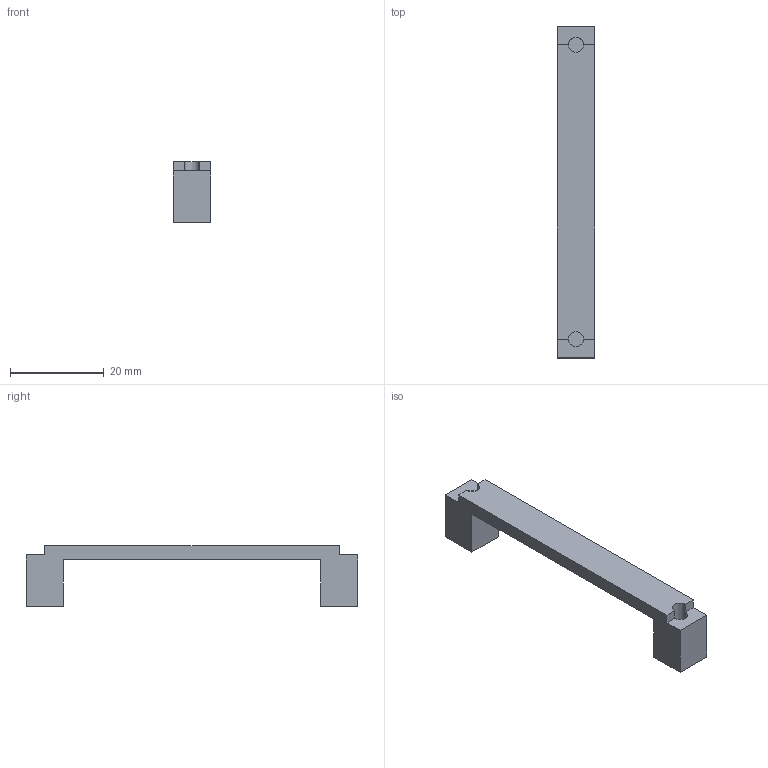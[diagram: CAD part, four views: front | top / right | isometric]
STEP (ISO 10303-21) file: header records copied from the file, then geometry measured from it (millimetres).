
FILE_DESCRIPTION(('Open CASCADE Model'),'2;1');
FILE_NAME('Open CASCADE Shape Model','2026-11-20T16:44:58',('Author'),( 'Open CASCADE'),'Open CASCADE STEP processor 7.9','Open CASCADE 7.9' ,'Unknown');
FILE_SCHEMA(('AUTOMOTIVE_DESIGN { 1 0 10303 214 1 1 1 1 }'));
Length unit declared in the file: millimetre
Products named in the file (1): Open CASCADE STEP translator 7.9 5
Bounding box: 8 x 71 x 13 mm (x, y, z)
Volume: 2679.1 mm3; surface area: 2426.4 mm2
Topology: 1 solids, 1 shells, 20 faces, 52 edges, 34 vertices
Faces by surface type: plane 18, cylinder 2
Full cylindrical faces by diameter (mm): 3.2 x2
Entity records: 1276 total; most frequent: CARTESIAN_POINT 227, DIRECTION 188, LINE 128, VECTOR 128, ORIENTED_EDGE 104, PCURVE 104, DEFINITIONAL_REPRESENTATION 104, EDGE_CURVE 52
